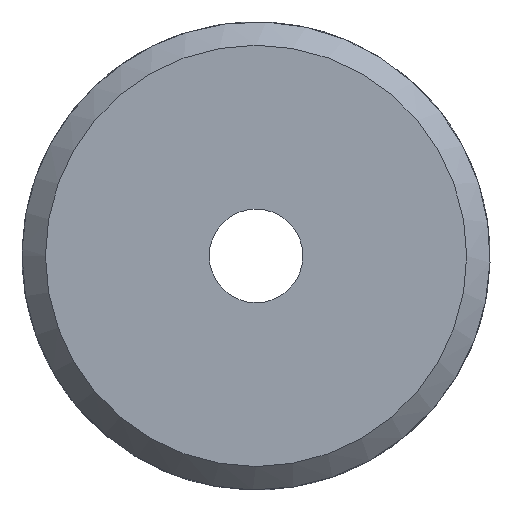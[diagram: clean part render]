
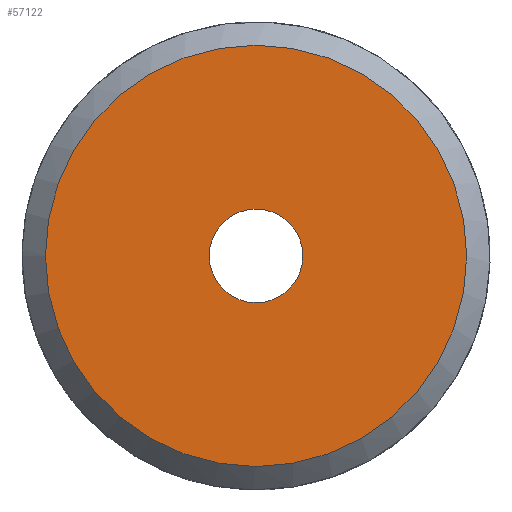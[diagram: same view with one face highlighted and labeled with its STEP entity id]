
A CAD part, left-side view. The second image highlights one B-rep face of the part: STEP entity #57122.
In plain terms, the highlighted planar face has unit normal (-1, 0, 0).
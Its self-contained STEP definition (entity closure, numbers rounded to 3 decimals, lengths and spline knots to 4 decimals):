
#15747=PLANE('',#56502);
#20407=ORIENTED_EDGE('',*,*,#21907,.F.);
#20408=ORIENTED_EDGE('',*,*,#23477,.F.);
#20410=CIRCLE('',#55699,4.5);
#20813=CIRCLE('',#56501,1.);
#20815=VERTEX_POINT('',#26077);
#21905=VERTEX_POINT('',#55692);
#21907=EDGE_CURVE('',#20815,#20815,#20410,.T.);
#23477=EDGE_CURVE('',#21905,#21905,#20813,.T.);
#23966=EDGE_LOOP('',(#20407));
#23967=EDGE_LOOP('',(#20408));
#24456=FACE_BOUND('',#23966,.T.);
#24457=FACE_BOUND('',#23967,.T.);
#24462=DIRECTION('',(1.,0.,0.));
#24463=DIRECTION('',(0.,0.,-4.5));
#26066=DIRECTION('',(-1.,0.,0.));
#26067=DIRECTION('',(0.,0.,1.));
#26068=DIRECTION('',(-1.,0.,0.));
#26069=DIRECTION('',(0.,1.,0.));
#26077=CARTESIAN_POINT('',(0.,0.,-4.5));
#26078=CARTESIAN_POINT('',(0.,0.,0.));
#55692=CARTESIAN_POINT('',(0.,0.,1.));
#55693=CARTESIAN_POINT('',(0.,0.,0.));
#55694=CARTESIAN_POINT('',(0.,0.,-4.5));
#55699=AXIS2_PLACEMENT_3D('',#26078,#24462,#24463);
#56501=AXIS2_PLACEMENT_3D('',#55693,#26066,#26067);
#56502=AXIS2_PLACEMENT_3D('',#55694,#26068,#26069);
#57122=ADVANCED_FACE('',(#24456,#24457),#15747,.T.);
